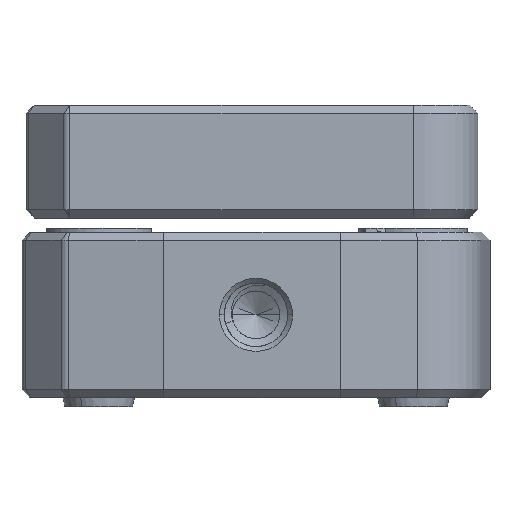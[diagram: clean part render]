
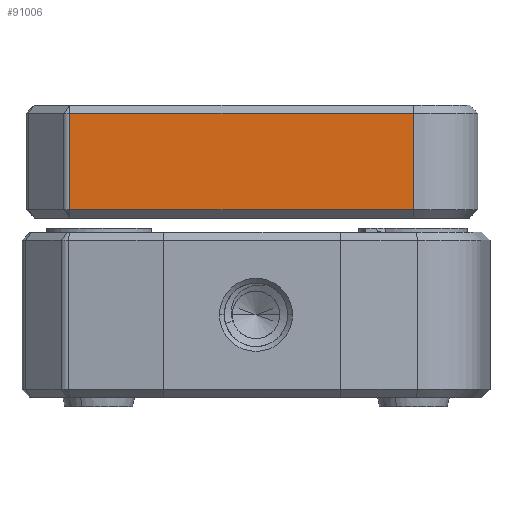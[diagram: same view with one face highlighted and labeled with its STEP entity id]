
A CAD part, front view. The second image highlights one B-rep face of the part: STEP entity #91006.
In plain terms, the highlighted planar face has unit normal (0, -1, 0).
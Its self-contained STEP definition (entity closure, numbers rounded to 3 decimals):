
#84002=DIRECTION('',(0.,0.,-1.));
#84003=VECTOR('',#84002,6.096);
#84004=CARTESIAN_POINT('',(11.054,-14.468,
2.742));
#84005=LINE('',#84004,#84003);
#84014=DIRECTION('',(0.,0.,1.));
#84015=VECTOR('',#84014,6.096);
#84016=CARTESIAN_POINT('',(-10.579,-14.468,
-3.354));
#84017=LINE('',#84016,#84015);
#84251=DIRECTION('',(1.,0.,0.));
#84252=VECTOR('',#84251,21.633);
#84253=CARTESIAN_POINT('',(-10.579,-14.468,
2.742));
#84254=LINE('',#84253,#84252);
#85654=DIRECTION('',(-1.,0.,0.));
#85655=VECTOR('',#85654,21.633);
#85656=CARTESIAN_POINT('',(11.054,-14.468,
-3.354));
#85657=LINE('',#85656,#85655);
#89019=CARTESIAN_POINT('',(-10.579,-14.468,
-3.354));
#89020=CARTESIAN_POINT('',(-10.579,-14.468,
2.742));
#89021=VERTEX_POINT('',#89019);
#89022=VERTEX_POINT('',#89020);
#89167=CARTESIAN_POINT('',(11.054,-14.468,
2.742));
#89169=VERTEX_POINT('',#89167);
#89271=CARTESIAN_POINT('',(11.054,-14.468,
-3.354));
#89272=VERTEX_POINT('',#89271);
#90992=CARTESIAN_POINT('',(-10.579,-14.468,
3.25));
#90993=DIRECTION('',(0.,1.,0.));
#90994=DIRECTION('',(0.,0.,1.));
#90995=AXIS2_PLACEMENT_3D('',#90992,#90993,#90994);
#90996=PLANE('',#90995);
#90998=ORIENTED_EDGE('',*,*,#90997,.T.);
#91000=ORIENTED_EDGE('',*,*,#90999,.T.);
#91001=ORIENTED_EDGE('',*,*,#90982,.T.);
#91003=ORIENTED_EDGE('',*,*,#91002,.T.);
#91004=EDGE_LOOP('',(#90998,#91000,#91001,#91003));
#91005=FACE_OUTER_BOUND('',#91004,.F.);
#91006=ADVANCED_FACE('',(#91005),#90996,.F.);
#90982=EDGE_CURVE('',#89169,#89272,#84005,.T.);
#90997=EDGE_CURVE('',#89021,#89022,#84017,.T.);
#90999=EDGE_CURVE('',#89022,#89169,#84254,.T.);
#91002=EDGE_CURVE('',#89272,#89021,#85657,.T.);
